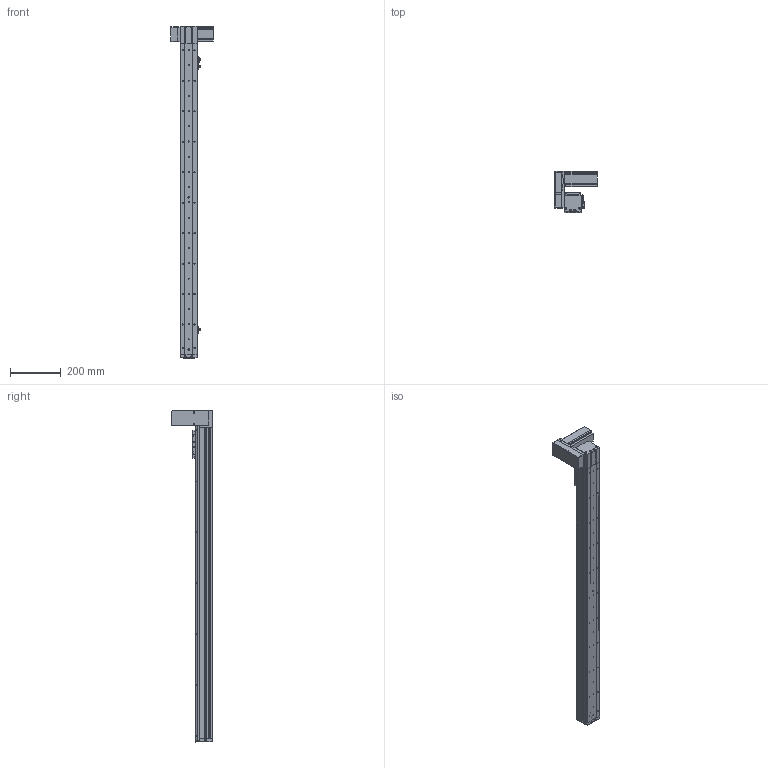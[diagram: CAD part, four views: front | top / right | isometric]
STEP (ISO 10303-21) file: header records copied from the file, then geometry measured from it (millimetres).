
FILE_DESCRIPTION (( 'STEP AP214' ), '1' );
FILE_NAME ('KSD68BS-S1050-MRU-CR.STEP', '2019-11-08T06:08:10', ( '微软用户' ), ( '微软中国' ), 'SwSTEP 2.0', 'SolidWorks 2014', '' );
FILE_SCHEMA (( 'AUTOMOTIVE_DESIGN' ));
Length unit declared in the file: millimetre
Products named in the file (14): 台达ECMA－C20604AS伺服电机（400W); KSD68BS 1050行程底板全封闭; KSD68BS-S1050-MRU-CR; 68宽单导轨全封闭丝杆传动安装板1防护罩; KSD68BS 1050行程侧板全封闭; 68宽单导轨全封闭同步带端板; 68单导轨全封闭同步带电机座右; 68单导轨全封闭同步带安装板; 悵誘欶奻狟殏; 68遵裔啣揤啣1; 68宽马达安装板连板上折同步带; 感应片68宽全封闭; KSD68BS 1050行程盖板全封闭; U倰嫖萇EEㄜSX672
Assembly tree (17 placements, depth 2):
  KSD68BS-S1050-MRU-CR
    KSD68BS 1050行程底板全封闭
    台达ECMA－C20604AS伺服电机（400W)
    U倰嫖萇EEㄜSX672  x3
    感应片68宽全封闭
    68宽马达安装板连板上折同步带
    悵誘欶奻狟殏
    68单导轨全封闭同步带安装板
    68单导轨全封闭同步带电机座右
    68宽单导轨全封闭同步带端板
    KSD68BS 1050行程侧板全封闭  x2
    68宽单导轨全封闭丝杆传动安装板1防护罩
    68遵裔啣揤啣1  x2
    KSD68BS 1050行程盖板全封闭
Bounding box: 167.2 x 159.5 x 1308.1 mm (x, y, z)
Volume: 2604040.3 mm3; surface area: 1004357 mm2
Topology: 18 solids, 18 shells, 1540 faces, 4393 edges, 2805 vertices
Faces by surface type: cylinder 737, plane 631, cone 172
Entity records: 49082 total; most frequent: CARTESIAN_POINT 8427, DIRECTION 7345, ORIENTED_EDGE 7022, EDGE_CURVE 3511, AXIS2_PLACEMENT_3D 2657, VERTEX_POINT 2303, LINE 2031, VECTOR 2031
